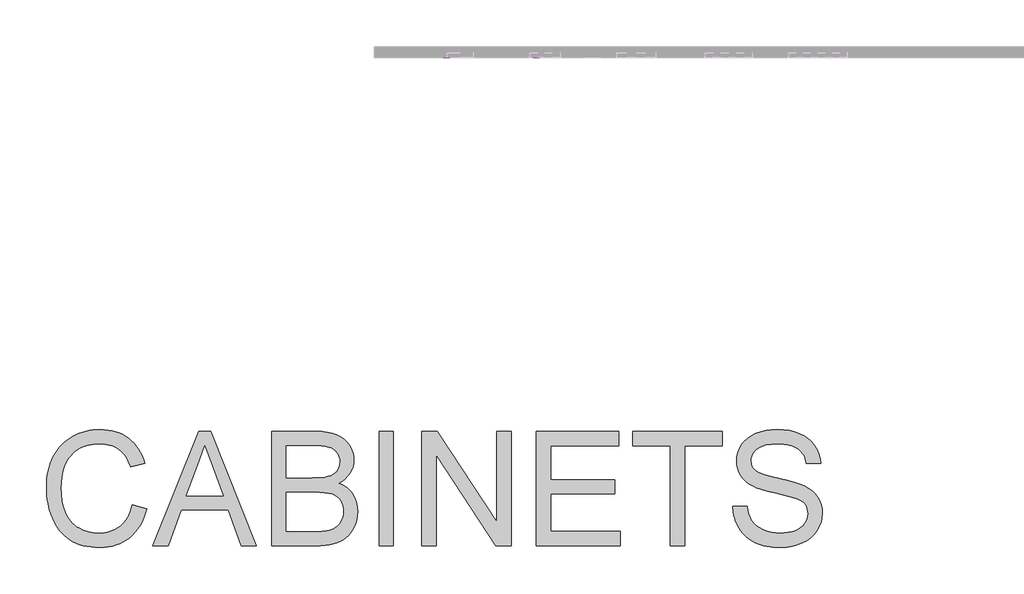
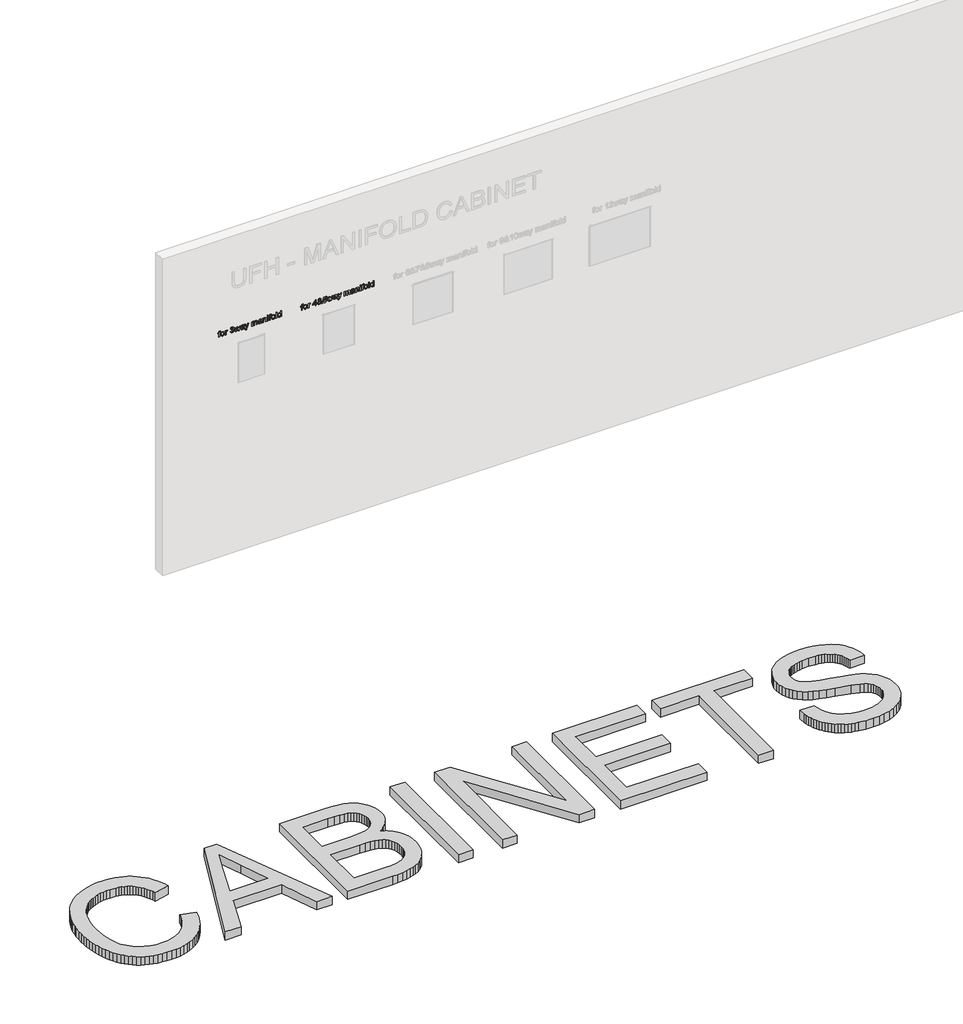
# One storey, part 7 of 26: 3 proxies.
"""IFC4 building model written with IfcOpenShell, lengths in millimetres."""

from ifc_helpers import new_model, si_unit, frame, origin, origin_with_axes, place, context, project, spatial, polyline, outline, extrude, element, save

model = new_model("IFC4")

# Units and contexts
model_context = context("Model", 3, world=origin())
ifc_project = project(units=[si_unit("LENGTHUNIT", "METRE", prefix="MILLI")], contexts=[model_context])

# Site, building, storey
site = spatial("IfcSite", under=ifc_project)
building = spatial("IfcBuilding", under=site)
storey = spatial("IfcBuildingStorey", under=building, Name="Superpipe UFH", Elevation=0.0)

# Proxies
placement = place(None, origin())
element("IfcBuildingElementProxy", 1, Name="2000mm Arial", ObjectType="2000mm Arial", at=placement, inside=storey, context=model_context, shape_type="SweptSolid", body=[
    extrude(outline(polyline([(-4521.2188799, -23078.3000419), (-4270.0781045, -23143.0472731), (-4292.8637956, -23223.6019337), (-4319.7728307, -23299.2285085), (-4350.8052098, -23369.9269973), (-4385.960933, -23435.6974003), (-4425.2400002, -23496.5397173), (-4468.6424114, -23552.4539485), (-4516.1681667, -23603.4400937), (-4567.8172659, -23649.4981531), (-4623.0302221, -23690.3675435), (-4681.2475478, -23725.7876819), (-4742.4692432, -23755.7585682), (-4806.6953081, -23780.2802024), (-4873.9257428, -23799.3525846), (-4944.160547, -23812.9757147), (-5017.3997209, -23821.1495928), (-5093.6432644, -23823.8742188), (-5172.0902678, -23821.8125468), (-5246.7894733, -23815.6275308), (-5317.740881, -23805.3191707), (-5384.9444909, -23790.8874666), (-5448.400303, -23772.3324185), (-5508.1083172, -23749.6540263), (-5564.0685336, -23722.8522901), (-5616.2809522, -23691.9272099), (-5665.1172871, -23657.0933835), (-5710.9492523, -23618.5654087), (-5753.7768479, -23576.3432855), (-5793.6000739, -23530.427014), (-5830.4189302, -23480.8165941), (-5864.233417, -23427.5120259), (-5895.043534, -23370.5133092), (-5922.8492815, -23309.8204442), (-5947.5088715, -23246.7056894), (-5968.8805162, -23182.4413034), (-5986.9642155, -23117.0272861), (-6001.7599695, -23050.4636376), (-6013.2677781, -22982.7503579), (-6021.4876415, -22913.8874469), (-6026.4195595, -22843.8749047), (-6028.0635321, -22772.7127313), (-6026.2049616, -22695.7257596), (-6020.6292501, -22621.2373198), (-6011.3363977, -22549.2474118), (-5998.3264042, -22479.7560358), (-5981.5992697, -22412.7631916), (-5961.1549943, -22348.2688793), (-5936.9935778, -22286.2730989), (-5909.1150204, -22226.7758504), (-5877.8105618, -22170.2791394), (-5843.3714421, -22117.2849716), (-5805.7976613, -22067.793347), (-5765.0892193, -22021.8042655), (-5721.2461161, -21979.3177271), (-5674.2683517, -21940.3337319), (-5624.1559262, -21904.8522799), (-5570.9088395, -21872.8733711), (-5515.4046434, -21844.5349611), (-5458.5208899, -21819.9750059), (-5400.257579, -21799.1935052), (-5340.6147105, -21782.1904593), (-5279.5922845, -21768.965868), (-5217.1903011, -21759.5197313), (-5153.4087602, -21753.8520493), (-5088.2476618, -21751.962822), (-5014.9356779, -21754.4077044), (-4944.6050711, -21761.7423517), (-4877.2558412, -21773.9667638), (-4812.8879884, -21791.0809408), (-4751.5015126, -21813.0848827), (-4693.0964137, -21839.9785893), (-4637.6726919, -21871.7620609), (-4585.2303471, -21908.4352973), (-4536.2139033, -21949.5461102), (-4491.0678847, -21994.6423115), (-4449.7922913, -22043.723901), (-4412.387123, -22096.7908788), (-4378.8523799, -22153.8432449), (-4349.1880619, -22214.8809993), (-4323.3941691, -22279.9041419), (-4301.4707014, -22348.9126728), (-4552.6114768, -22408.7548107), (-4571.388787, -22357.5770602), (-4592.1587913, -22309.9938234), (-4614.9214897, -22266.0051003), (-4639.6768823, -22225.6108908), (-4666.4249691, -22188.811195), (-4695.1657499, -22155.6060128), (-4725.899225, -22125.9953443), (-4758.6253941, -22099.9791894), (-4793.4362279, -22077.2739725), (-4830.4236968, -22057.5961179), (-4869.5878009, -22040.9456255), (-4910.9285401, -22027.3224954), (-4954.4459145, -22016.7267275), (-5000.1399239, -22009.1583219), (-5098.0578483, -22003.1035974), (-5155.5930595, -22004.782059), (-5210.7217094, -22009.8174438), (-5263.4437978, -22018.2097518), (-5313.7593248, -22029.958983), (-5361.6682905, -22045.0651374), (-5407.1706948, -22063.5282151), (-5450.2665377, -22085.3482159), (-5490.9558192, -22110.52514), (-5528.9741241, -22138.5301568), (-5564.0570373, -22168.8344362), (-5596.2045587, -22201.437978), (-5625.4166884, -22236.3407823), (-5651.6934263, -22273.5428491), (-5675.0347725, -22313.0441783), (-5695.4407269, -22354.84477), (-5712.9112896, -22398.9446242), (-5740.9163065, -22490.1487022), (-5760.91989, -22582.7629944), (-5772.9220401, -22676.787501), (-5776.9227568, -22772.222222), (-5772.1862761, -22892.1517524), (-5757.976834, -23004.2331336), (-5734.2944306, -23108.4663655), (-5701.1390658, -23204.8514483), (-5680.8748992, -23249.6219207), (-5657.974245, -23291.4723297), (-5632.4371032, -23330.4026754), (-5604.2634737, -23366.4129578), (-5573.4533566, -23399.5031769), (-5540.0067519, -23429.6733326), (-5503.9236595, -23456.923425), (-5465.2040795, -23481.253454), (-5383.4882913, -23521.2759494), (-5298.492222, -23549.8634461), (-5210.2158716, -23567.0159441), (-5118.6592401, -23572.7334435), (-5062.9749351, -23570.7867346), (-5009.4749296, -23564.9466079), (-4958.1592234, -23555.2130634), (-4909.0278165, -23541.5861012), (-4862.0807089, -23524.0657212), (-4817.3179008, -23502.6519234), (-4774.7393919, -23477.3447078), (-4734.3451824, -23448.1440744), (-4696.6257816, -23415.1113369), (-4662.0716988, -23378.307809), (-4630.682934, -23337.7334906), (-4602.4594872, -23293.3883818), (-4577.4013583, -23245.2724825), (-4555.5085475, -23193.3857928), (-4536.7810547, -23137.7283126), (-4521.2188799, -23078.3000419)])), origin_with_axes(), (0.0, 0.0, 1.0), 150.0),
    extrude(outline(polyline([(-4158.7324873, -23792.4816219), (-3356.7497378, -21783.3554189), (-3142.8876713, -21783.3554189), (-2340.9049218, -23792.4816219), (-2606.2704677, -23792.4816219), (-2836.319342, -23164.6296835), (-3663.8085765, -23164.6296835), (-3893.3669415, -23792.4816219), (-4158.7324873, -23792.4816219)]), holes=[polyline([(-3571.592823, -22913.4889081), (-2928.0445861, -22913.4889081), (-3109.0425277, -22419.5460159), (-3249.8187046, -22034.4961943), (-3374.8985829, -22376.3811951), (-3571.592823, -22913.4889081)])]), origin_with_axes(), (0.0, 0.0, 1.0), 150.0),
    extrude(outline(polyline([(-2072.59632, -23792.4816219), (-2072.59632, -21783.3554189), (-1305.930242, -21783.3554189), (-1194.7225806, -21787.0495673), (-1095.0725451, -21798.1320124), (-1006.9801357, -21816.6027542), (-930.4453523, -21842.4617928), (-863.521486, -21875.9850396), (-804.261828, -21917.4484062), (-752.6663781, -21966.8518924), (-708.7351365, -22024.1954984), (-673.6483913, -22086.2449283), (-648.5864303, -22149.7658861), (-633.5492538, -22214.7583719), (-628.5368616, -22281.2223857), (-632.7521761, -22342.6126937), (-645.3981197, -22402.1942485), (-666.4746923, -22459.9670501), (-695.981894, -22515.9310986), (-734.0116953, -22568.3389545), (-780.6560666, -22615.4431783), (-835.915008, -22657.24377), (-899.7885194, -22693.7407296), (-823.9894999, -22726.0530316), (-789.5733729, -22745.8420172), (-757.4795009, -22768.0528927), (-727.707884, -22792.6856579), (-700.2585222, -22819.740313), (-675.1314155, -22849.2168579), (-652.3265639, -22881.1152925), (-614.4500469, -22950.3077645), (-587.3953918, -23025.447662), (-571.1625988, -23106.5349851), (-565.7516678, -23193.5697338), (-569.4458161, -23264.8928556), (-580.5282612, -23333.6714603), (-598.9990031, -23399.9055478), (-624.8580416, -23463.5951182), (-656.1739965, -23522.4255806), (-691.0154871, -23574.0823441), (-729.3825135, -23618.5654087), (-771.2750757, -23655.8747744), (-817.6741924, -23687.5432828), (-869.5608821, -23715.1037756), (-926.9351449, -23738.5562528), (-989.7969809, -23757.9007144), (-1059.1274085, -23773.0298614), (-1135.9074466, -23783.836395), (-1220.1370951, -23790.3203152), (-1311.816354, -23792.4816219), (-2072.59632, -23792.4816219)]), holes=[polyline([(-1821.4555446, -22599.5629389), (-1362.829324, -22599.5629389), (-1202.4327741, -22594.1673363), (-1142.1001269, -22587.422833), (-1095.0112315, -22577.9805285), (-1044.8413244, -22561.6864218), (-1001.2626364, -22540.7631333), (-964.2751674, -22515.2106631), (-933.8789176, -22485.0290111), (-910.1658573, -22450.4327751), (-893.2279571, -22411.636553), (-883.065217, -22368.6403448), (-879.677637, -22321.4441505), (-882.8352908, -22276.2559788), (-892.3082521, -22233.8882357), (-908.0965211, -22194.3409212), (-930.2000976, -22157.6140353), (-958.1897861, -22125.0718072), (-991.6363908, -22098.0784658), (-1030.5399118, -22076.6340112), (-1074.9003491, -22060.7384433), (-1130.3892167, -22049.2574593), (-1202.6780287, -22041.0567565), (-1291.7667852, -22036.1363349), (-1397.6554862, -22034.4961943), (-1821.4555446, -22034.4961943), (-1821.4555446, -22599.5629389)]), polyline([(-1821.4555446, -23541.3408465), (-1306.4207514, -23541.3408465), (-1193.6036062, -23538.8882999), (-1120.0272072, -23531.53066), (-1074.8543638, -23522.0423702), (-1033.5136246, -23509.7643086), (-996.0049895, -23494.6964752), (-962.3284586, -23476.83887), (-931.9781939, -23455.4250722), (-904.448358, -23429.688661), (-879.7389506, -23399.6296363), (-857.8499719, -23365.2479982), (-839.9310531, -23327.2641822), (-827.1318253, -23286.3986239), (-819.4522887, -23242.6513233), (-816.8924431, -23196.0222804), (-819.8968128, -23141.6983724), (-828.9099216, -23091.0532844), (-843.9317698, -23044.0870164), (-864.9623572, -23000.7995683), (-892.7221194, -22962.4325419), (-927.931492, -22930.2275389), (-970.590475, -22904.1845593), (-1020.6990685, -22884.3036031), (-1080.4645643, -22869.6036518), (-1152.0942544, -22859.1036865), (-1235.5881389, -22852.8037073), (-1330.9462177, -22850.7037143), (-1821.4555446, -22850.7037143), (-1821.4555446, -23541.3408465)])]), origin_with_axes(), (0.0, 0.0, 1.0), 150.0),
    extrude(outline(polyline([(-189.0405047, -23792.4816219), (-189.0405047, -21783.3554189), (62.1002707, -21783.3554189), (62.1002707, -23792.4816219), (-189.0405047, -23792.4816219)])), origin_with_axes(), (0.0, 0.0, 1.0), 150.0),
    extrude(outline(polyline([(564.3818214, -23792.4816219), (564.3818214, -21783.3554189), (833.1809326, -21783.3554189), (1882.8708921, -23375.0581847), (1882.8708921, -21783.3554189), (2134.0116675, -21783.3554189), (2134.0116675, -23792.4816219), (1865.2125564, -23792.4816219), (815.5225968, -22200.2883468), (815.5225968, -23792.4816219), (564.3818214, -23792.4816219)])), origin_with_axes(), (0.0, 0.0, 1.0), 150.0),
    extrude(outline(polyline([(2573.5080244, -23792.4816219), (2573.5080244, -21783.3554189), (4017.5674828, -21783.3554189), (4017.5674828, -22034.4961943), (2824.6487998, -22034.4961943), (2824.6487998, -22630.9555358), (3954.782289, -22630.9555358), (3954.782289, -22882.0963112), (2824.6487998, -22882.0963112), (2824.6487998, -23541.3408465), (4048.9600797, -23541.3408465), (4048.9600797, -23792.4816219), (2573.5080244, -23792.4816219)])), origin_with_axes(), (0.0, 0.0, 1.0), 150.0),
    extrude(outline(polyline([(4927.9527936, -23792.4816219), (4927.9527936, -22034.4961943), (4268.7082582, -22034.4961943), (4268.7082582, -21783.3554189), (5838.3381043, -21783.3554189), (5838.3381043, -22034.4961943), (5179.0935689, -22034.4961943), (5179.0935689, -23792.4816219), (4927.9527936, -23792.4816219)])), origin_with_axes(), (0.0, 0.0, 1.0), 150.0),
    extrude(outline(polyline([(6026.6936858, -23101.8444896), (6277.8344612, -23101.8444896), (6289.3307735, -23174.9457078), (6306.6518841, -23241.2104521), (6329.797793, -23300.6387228), (6358.7685001, -23353.2305197), (6395.0355335, -23400.0435036), (6440.0704211, -23442.1353352), (6493.8731629, -23479.5060145), (6556.4437589, -23512.1555416), (6625.4829466, -23538.6583737), (6698.6914637, -23557.588968), (6776.06931, -23568.9473246), (6857.6164856, -23572.7334435), (6929.7520135, -23569.8670296), (6997.5342711, -23561.2677879), (7060.9632584, -23546.9357185), (7120.0389755, -23526.8708214), (7173.3052227, -23501.7935321), (7219.3058005, -23472.4242861), (7258.0407089, -23438.7630835), (7289.5099479, -23400.8099244), (7313.8668017, -23360.2049492), (7331.2645544, -23318.5882985), (7341.703206, -23275.9599723), (7345.1827565, -23232.3199706), (7342.5769257, -23188.8639099), (7334.7594333, -23148.2589347), (7321.7302793, -23110.5050449), (7303.4894637, -23075.6022406), (7277.1859011, -23043.3665808), (7239.9685059, -23013.6141245), (7191.8372782, -22986.3448716), (7132.792218, -22961.5588221), (7000.1707587, -22922.134135), (6767.1175148, -22865.6642487), (6636.2894802, -22833.5512162), (6527.0745129, -22802.2046046), (6439.4726128, -22771.6244137), (6373.4837799, -22741.8106437), (6306.4219579, -22701.8034767), (6248.4652152, -22657.3204121), (6199.613552, -22608.3614499), (6159.8669681, -22554.9265901), (6129.0721794, -22497.5676557), (6107.0759018, -22436.8364697), (6093.8781352, -22372.733032), (6089.4788797, -22305.2573427), (6094.9204675, -22230.4699988), (6111.245231, -22158.1658583), (6138.4531703, -22088.3449213), (6176.5442852, -22021.0071878), (6199.5637346, -21988.955469), (6225.0893801, -21958.8964443), (6283.6592594, -21904.7564773), (6352.2539231, -21858.5872869), (6430.8733712, -21820.3888731), (6516.8657876, -21790.4524757), (6607.5793562, -21769.0693348), (6703.0140771, -21756.2394502), (6803.1699503, -21751.962822), (6912.4309029, -21756.4387196), (7015.0699795, -21769.8664124), (7111.0871803, -21792.2459005), (7200.4825051, -21823.5771837), (7281.600485, -21863.5843507), (7352.7856511, -21911.9914899), (7384.6534289, -21939.3450491), (7414.0380033, -21968.7986013), (7440.9393742, -22000.3521466), (7465.3575416, -22034.005685), (7506.3457273, -22105.7120172), (7536.6040214, -22182.0168744), (7556.1324239, -22262.9202565), (7564.930935, -22348.4221635), (7313.7901596, -22348.4221635), (7306.9536859, -22307.0507675), (7296.9902152, -22268.2852022), (7283.8997475, -22232.1254678), (7267.6822829, -22198.5715641), (7248.3378213, -22167.6234913), (7225.8663628, -22139.2812493), (7200.2679073, -22113.544838), (7171.5424548, -22090.4142576), (7139.4370865, -22069.9508216), (7103.6988835, -22052.2158437), (7064.3278458, -22037.209324), (7021.3239734, -22024.9312624), (6974.6872663, -22015.381659), (6924.4177245, -22008.5605136), (6812.9801368, -22003.1035974), (6697.9863565, -22008.4992), (6646.7664529, -22015.2437032), (6599.731207, -22024.6860078), (6556.8806187, -22036.8261136), (6518.2146882, -22051.6640207), (6483.7334154, -22069.1997292), (6453.4368002, -22089.4332389), (6426.9952818, -22111.5751365), (6404.0792992, -22134.8360085), (6384.6888524, -22159.2158549), (6368.8239413, -22184.7146757), (6356.4845661, -22211.3324708), (6347.6707266, -22239.0692404), (6342.3824229, -22267.9249844), (6340.619655, -22297.8997028), (6345.6167188, -22348.514134), (6360.6079101, -22394.4074129), (6385.5932289, -22435.5795395), (6420.5726753, -22472.0305139), (6444.1477798, -22489.2443256), (6475.6323473, -22506.5501078), (6562.3298708, -22541.4375836), (6680.6652459, -22576.6929415), (6830.6384726, -22612.3161814), (6982.7576776, -22647.0503731), (7107.5309876, -22679.6385865), (7204.9584027, -22710.0808216), (7275.0399228, -22738.3770784), (7352.0345587, -22781.2659877), (7418.2073326, -22829.4891859), (7473.5582444, -22883.046673), (7518.0872943, -22941.9384491), (7552.3156482, -23005.8579457), (7576.7644725, -23074.4985947), (7591.4337671, -23147.8603959), (7596.3235319, -23225.9433493), (7590.6980031, -23304.5014837), (7573.8214165, -23380.7603556), (7545.6937723, -23454.7199651), (7506.3150704, -23526.3803121), (7456.3750896, -23592.9669532), (7396.5636085, -23651.7054451), (7326.8806273, -23702.5957878), (7247.3261458, -23745.6379812), (7160.214755, -23779.8663352), (7067.8610458, -23804.3151594), (6970.2650182, -23818.984454), (6867.4266721, -23823.8742188), (6738.9592137, -23818.6012436), (6621.374931, -23802.7823178), (6566.6639806, -23790.9181234), (6514.673824, -23776.4174415), (6465.4044614, -23759.2802718), (6418.8558927, -23739.5066146), (6374.8824979, -23717.0811413), (6333.3386572, -23691.9885236), (6294.2243705, -23664.2287613), (6257.5396378, -23633.8018547), (6223.2844591, -23600.7078035), (6191.4588344, -23564.9466079), (6162.0627637, -23526.5182678), (6135.0962471, -23485.4227833), (6110.8696848, -23442.3039477), (6089.6934775, -23397.8055547), (6071.567625, -23351.9276043), (6056.4921274, -23304.6700963), (6044.4669847, -23256.0330309), (6035.4921969, -23206.0164079), (6026.6936858, -23101.8444896)])), origin_with_axes(), (0.0, 0.0, 1.0), 150.0),
])
element("IfcBuildingElementProxy", 2, Name="600mm Arial 2", ObjectType="600mm Arial 2", at=placement, inside=storey, context=model_context, shape_type="SweptSolid", body=[
    extrude(outline(polyline([(3970.2370156, 673.6444149), (3970.2370156, 686.2014537), (4031.4525796, 686.2014537), (4031.4525796, 700.3281223), (4044.0096184, 700.3281223), (4044.0096184, 686.2014537), (4049.8466793, 686.2014537), (4057.6212522, 688.5191102), (4059.7059168, 696.4285731), (4059.1173056, 703.6635857), (4070.8895295, 705.5029957), (4072.2629556, 694.0496029), (4069.393476, 681.3944622), (4061.9132088, 674.9687901), (4051.4408347, 673.6444149), (4044.0096184, 673.6444149), (4044.0096184, 662.657006), (4031.4525796, 662.657006), (4031.4525796, 673.6444149), (3970.2370156, 673.6444149)])), frame((0.0, -15228.3023992, 0.0), z_axis=(0.0, 1.0, 0.0), x_axis=(0.0, 0.0, 1.0)), (0.0, 0.0, 1.0), 10.0),
    extrude(outline(polyline([(4007.123317, 708.1762715), (3990.666729, 710.4540742), (3978.5756741, 717.2874822), (3971.1444578, 727.811973), (3968.6673857, 741.1630237), (3973.1678088, 758.1714346), (3985.8106867, 770.0294976), (4008.1533866, 774.100725), (4023.791437, 771.7983969), (4035.6341716, 764.8914124), (4043.092979, 754.3546589), (4045.5792482, 741.1630237), (4043.5375031, 729.108757), (4037.4122679, 719.0410531), (4024.9104114, 710.8924669), (4007.123317, 708.1762715)]), holes=[polyline([(4007.1478424, 720.7333103), (4018.506199, 722.1864441), (4026.5842745, 726.5458458), (4031.4127257, 733.106408), (4033.0222094, 741.1630237), (4031.4065943, 749.136866), (4026.559749, 755.6943625), (4018.5736441, 760.0813553), (4007.5402499, 761.5436863), (3995.9274416, 760.0905524), (3987.7236731, 755.7311507), (3982.8492367, 749.1828512), (3981.2244245, 741.1630237), (3982.8400396, 733.106408), (3987.6868849, 726.5458458), (3995.7833545, 722.1864441), (4007.1478424, 720.7333103)])]), frame((0.0, -15228.3023992, 0.0), z_axis=(0.0, 1.0, 0.0), x_axis=(0.0, 0.0, 1.0)), (0.0, 0.0, 1.0), 10.0),
    extrude(outline(polyline([(3970.2370156, 788.2273936), (3970.2370156, 800.7844324), (4009.0117779, 800.7844324), (4023.6780067, 802.8200461), (4030.5451373, 807.3449947), (4033.0222094, 814.4451172), (4030.4470355, 823.2742851), (4041.7042245, 827.4681398), (4045.5792482, 814.8620501), (4043.151227, 807.0139009), (4033.0957858, 799.2148026), (4044.0096184, 799.2148026), (4044.0096184, 788.2273936), (3970.2370156, 788.2273936)])), frame((0.0, -15228.3023992, 0.0), z_axis=(0.0, 1.0, 0.0), x_axis=(0.0, 0.0, 1.0)), (0.0, 0.0, 1.0), 10.0),
    extrude(outline(polyline([(3996.920723, 871.4177755), (3985.5715634, 874.5263783), (3976.5400604, 881.3996403), (3970.6355544, 891.2834032), (3968.6673857, 903.4235091), (3970.9727796, 916.8450705), (3977.8889611, 927.7282462), (3988.1160805, 934.9387333), (4000.3542883, 937.342229), (4016.6882488, 932.5352376), (4025.2721621, 918.8500274), (4033.5862952, 929.1507233), (4045.1623153, 932.6333395), (4057.8297186, 928.9667823), (4067.2474977, 918.3717808), (4070.6933257, 903.2273053), (4068.9458863, 892.2644219), (4063.7035678, 883.2635757), (4055.2852015, 876.6846194), (4044.0096184, 872.9874053), (4042.4399885, 885.5444441), (4054.2122123, 891.7003362), (4058.136287, 903.6687637), (4054.2490005, 915.4900385), (4044.4265513, 920.0763007), (4037.91504, 918.4944081), (4033.3410405, 913.7487304), (4029.7357969, 899.4994345), (4029.8829497, 897.4883462), (4017.325911, 896.0903946), (4018.6993371, 904.8950371), (4013.5612519, 919.1688585), (4000.5750175, 924.7851903), (3986.7917054, 919.1198075), (3982.6162447, 912.4734062), (3981.2244245, 903.8649675), (3985.2711265, 890.9032585), (3998.4903528, 883.9748143), (3996.920723, 871.4177755)])), frame((0.0, -15228.3023992, 0.0), z_axis=(0.0, 1.0, 0.0), x_axis=(0.0, 0.0, 1.0)), (0.0, 0.0, 1.0), 10.0),
    extrude(outline(polyline([(3970.2370156, 963.7071053), (3970.2370156, 979.0600473), (4026.9889447, 991.4944587), (4013.4999382, 994.2903619), (3970.2370156, 1003.9288702), (3970.2370156, 1019.1101338), (4044.0096184, 1041.7226138), (4044.0096184, 1028.6260148), (4001.2617305, 1015.8727723), (3987.1105364, 1011.8996467), (4000.5259665, 1009.128269), (4044.0096184, 999.0483023), (4044.0096184, 984.0877679), (4000.4033392, 973.9587503), (3985.5899575, 970.8440161), (4000.9674249, 967.0425688), (4044.0096184, 954.3138517), (4044.0096184, 941.2663036), (3970.2370156, 963.7071053)])), frame((0.0, -15228.3023992, 0.0), z_axis=(0.0, 1.0, 0.0), x_axis=(0.0, 0.0, 1.0)), (0.0, 0.0, 1.0), 10.0),
    extrude(outline(polyline([(3979.6547947, 1097.4444733), (3970.2370156, 1100.583733), (3970.2370156, 1113.1407718), (3980.7952288, 1110.6391742), (4002.6106312, 1110.0015121), (4018.2333532, 1110.0015121), (4029.2207621, 1109.3883754), (4037.7433617, 1105.5378772), (4043.3474308, 1096.9417013), (4045.5792482, 1081.7236494), (4043.0531252, 1065.1566969), (4035.8671635, 1054.2183389), (4023.6044304, 1048.7859481), (4022.0348005, 1061.3429869), (4030.606451, 1067.4007771), (4033.0222094, 1080.1049686), (4029.3924404, 1093.9863826), (4020.1218141, 1097.4444733), (4017.325911, 1097.3708969), (4013.0094289, 1075.5922828), (4011.120968, 1064.7275012), (4007.0006896, 1055.9351215), (3999.7902025, 1049.619814), (3989.8573887, 1047.2163183), (3981.4144969, 1048.8074079), (3974.6270741, 1053.5806768), (3970.1573078, 1061.3215271), (3968.6673857, 1071.815361), (3971.1444578, 1085.2675793), (3979.6547947, 1097.4444733)]), holes=[polyline([(4004.7688722, 1097.4444733), (4001.2126796, 1097.3708969), (3991.5005949, 1095.3843342), (3984.2287941, 1087.1928284), (3981.2244245, 1074.4886368), (3983.9467513, 1063.5134906), (3990.7403054, 1059.773357), (3995.5718223, 1061.4901397), (3998.8827603, 1066.3829702), (4000.918374, 1077.1864381), (4004.7688722, 1097.4444733)])]), frame((0.0, -15228.3023992, 0.0), z_axis=(0.0, 1.0, 0.0), x_axis=(0.0, 0.0, 1.0)), (0.0, 0.0, 1.0), 10.0),
    extrude(outline(polyline([(3941.9836784, 1127.2674404), (3940.4140485, 1134.9439114), (3943.2344771, 1144.7295724), (3952.0881705, 1152.0136359), (3968.471182, 1158.6845628), (4044.0096184, 1184.3627261), (4044.0096184, 1171.2170761), (4001.1391032, 1156.6734745), (3986.669078, 1151.7438558), (4003.0520896, 1146.8142371), (4044.0096184, 1132.663043), (4044.0096184, 1119.4192912), (3970.5067957, 1146.1029986), (3967.4656379, 1145.1219799), (3958.2195371, 1141.6884146), (3954.3567761, 1138.0341201), (3952.9710873, 1132.0744318), (3954.0747333, 1125.6978106), (3941.9836784, 1127.2674404)])), frame((0.0, -15228.3023992, 0.0), z_axis=(0.0, 1.0, 0.0), x_axis=(0.0, 0.0, 1.0)), (0.0, 0.0, 1.0), 10.0),
    extrude(outline(polyline([(3970.2370156, 1234.0022699), (3970.2370156, 1246.5593087), (4007.442148, 1246.5593087), (4022.427208, 1248.4722951), (4030.3244081, 1254.6527126), (4033.0222094, 1263.9478643), (4028.9755075, 1273.476008), (4016.8108762, 1276.3822758), (3970.2370156, 1276.3822758), (3970.2370156, 1288.9393145), (4011.8812574, 1288.9393145), (4021.4523207, 1290.1686535), (4027.9944888, 1293.8566706), (4033.0222094, 1306.2052429), (4031.0601721, 1313.3789418), (4025.8975615, 1317.597322), (4015.4129246, 1318.7622816), (3970.2370156, 1318.7622816), (3970.2370156, 1331.3193204), (4020.8085272, 1331.3193204), (4031.7990018, 1329.8815149), (4039.5091953, 1325.5680985), (4044.061735, 1318.5875377), (4045.5792482, 1309.1482988), (4041.9310851, 1296.775201), (4030.9865957, 1286.9772772), (4041.7410127, 1280.0610957), (4045.5792482, 1267.4795315), (4041.8145891, 1255.1922729), (4031.8695125, 1246.5593087), (4044.0096184, 1246.5593087), (4044.0096184, 1234.0022699), (3970.2370156, 1234.0022699)])), frame((0.0, -15228.3023992, 0.0), z_axis=(0.0, 1.0, 0.0), x_axis=(0.0, 0.0, 1.0)), (0.0, 0.0, 1.0), 10.0),
    extrude(outline(polyline([(3979.6547947, 1397.2437739), (3970.2370156, 1400.3830336), (3970.2370156, 1412.9400724), (3980.7952288, 1410.4384748), (4002.6106312, 1409.8008127), (4018.2333532, 1409.8008127), (4029.2207621, 1409.187676), (4037.7433617, 1405.3371778), (4043.3474308, 1396.7410019), (4045.5792482, 1381.52295), (4043.0531252, 1364.9559975), (4035.8671635, 1354.0176395), (4023.6044304, 1348.5852487), (4022.0348005, 1361.1422875), (4030.606451, 1367.2000777), (4033.0222094, 1379.9042692), (4029.3924404, 1393.7856832), (4020.1218141, 1397.2437739), (4017.325911, 1397.1701975), (4013.0094289, 1375.3915834), (4011.120968, 1364.5268018), (4007.0006896, 1355.7344221), (3999.7902025, 1349.4191146), (3989.8573887, 1347.0156189), (3981.4144969, 1348.6067085), (3974.6270741, 1353.3799774), (3970.1573078, 1361.1208277), (3968.6673857, 1371.6146616), (3971.1444578, 1385.0668799), (3979.6547947, 1397.2437739)]), holes=[polyline([(4004.7688722, 1397.2437739), (4001.2126796, 1397.1701975), (3991.5005949, 1395.1836348), (3984.2287941, 1386.992129), (3981.2244245, 1374.2879374), (3983.9467513, 1363.3127912), (3990.7403054, 1359.5726576), (3995.5718223, 1361.2894403), (3998.8827603, 1366.1822708), (4000.918374, 1376.9857387), (4004.7688722, 1397.2437739)])]), frame((0.0, -15228.3023992, 0.0), z_axis=(0.0, 1.0, 0.0), x_axis=(0.0, 0.0, 1.0)), (0.0, 0.0, 1.0), 10.0),
    extrude(outline(polyline([(3970.2370156, 1427.066741), (3970.2370156, 1439.6237798), (4009.3796599, 1439.6237798), (4020.9495486, 1441.0554539), (4028.0925907, 1445.3504762), (4033.0222094, 1458.9743727), (4030.8271802, 1467.5950741), (4024.953331, 1472.7086339), (4013.8432947, 1474.1556364), (3970.2370156, 1474.1556364), (3970.2370156, 1486.7126752), (4015.5355519, 1486.7126752), (4027.6756578, 1486.0504876), (4036.9094958, 1482.2858285), (4043.1880152, 1474.1924246), (4045.5792482, 1462.3343616), (4042.6116668, 1449.2254998), (4033.7089225, 1439.6237798), (4044.0096184, 1439.6237798), (4044.0096184, 1427.066741), (3970.2370156, 1427.066741)])), frame((0.0, -15228.3023992, 0.0), z_axis=(0.0, 1.0, 0.0), x_axis=(0.0, 0.0, 1.0)), (0.0, 0.0, 1.0), 10.0),
    extrude(outline(polyline([(1516.5356422, -15228.3023992), (1503.9786035, -15228.3023992), (1503.9786035, -15218.3023992), (1516.5356422, -15218.3023992), (1516.5356422, -15228.3023992)])), frame((0.0, 0.0, 4058.136287), z_axis=(0.0, 0.0, 1.0), x_axis=(1.0, 0.0, 0.0)), (0.0, 0.0, 1.0), 12.5570388),
    extrude(outline(polyline([(1516.5356422, -15228.3023992), (1503.9786035, -15228.3023992), (1503.9786035, -15218.3023992), (1516.5356422, -15218.3023992), (1516.5356422, -15228.3023992)])), frame((0.0, 0.0, 3970.2370156), z_axis=(0.0, 0.0, 1.0), x_axis=(1.0, 0.0, 0.0)), (0.0, 0.0, 1.0), 73.7726028),
    extrude(outline(polyline([(3970.2370156, 1538.5104601), (3970.2370156, 1551.0674988), (4031.4525796, 1551.0674988), (4031.4525796, 1565.1941675), (4044.0096184, 1565.1941675), (4044.0096184, 1551.0674988), (4049.8466793, 1551.0674988), (4057.6212522, 1553.3851554), (4059.7059168, 1561.2946183), (4059.1173056, 1568.5296309), (4070.8895295, 1570.3690409), (4072.2629556, 1558.9156481), (4069.393476, 1546.2605074), (4061.9132088, 1539.8348353), (4051.4408347, 1538.5104601), (4044.0096184, 1538.5104601), (4044.0096184, 1527.5230512), (4031.4525796, 1527.5230512), (4031.4525796, 1538.5104601), (3970.2370156, 1538.5104601)])), frame((0.0, -15228.3023992, 0.0), z_axis=(0.0, 1.0, 0.0), x_axis=(0.0, 0.0, 1.0)), (0.0, 0.0, 1.0), 10.0),
    extrude(outline(polyline([(4007.123317, 1573.0423167), (3990.666729, 1575.3201194), (3978.5756741, 1582.1535274), (3971.1444578, 1592.6780182), (3968.6673857, 1606.0290689), (3973.1678088, 1623.0374798), (3985.8106867, 1634.8955428), (4008.1533866, 1638.9667702), (4023.791437, 1636.6644421), (4035.6341716, 1629.7574576), (4043.092979, 1619.2207041), (4045.5792482, 1606.0290689), (4043.5375031, 1593.9748022), (4037.4122679, 1583.9070983), (4024.9104114, 1575.7585121), (4007.123317, 1573.0423167)]), holes=[polyline([(4007.1478424, 1585.5993555), (4018.506199, 1587.0524893), (4026.5842745, 1591.411891), (4031.4127257, 1597.9724532), (4033.0222094, 1606.0290689), (4031.4065943, 1614.0029112), (4026.559749, 1620.5604077), (4018.5736441, 1624.9474005), (4007.5402499, 1626.4097315), (3995.9274416, 1624.9565976), (3987.7236731, 1620.5971959), (3982.8492367, 1614.0488964), (3981.2244245, 1606.0290689), (3982.8400396, 1597.9724532), (3987.6868849, 1591.411891), (3995.7833545, 1587.0524893), (4007.1478424, 1585.5993555)])]), frame((0.0, -15228.3023992, 0.0), z_axis=(0.0, 1.0, 0.0), x_axis=(0.0, 0.0, 1.0)), (0.0, 0.0, 1.0), 10.0),
    extrude(outline(polyline([(1665.6504776, -15228.3023992), (1653.0934388, -15228.3023992), (1653.0934388, -15218.3023992), (1665.6504776, -15218.3023992), (1665.6504776, -15228.3023992)])), frame((0.0, 0.0, 3970.2370156), z_axis=(0.0, 0.0, 1.0), x_axis=(1.0, 0.0, 0.0)), (0.0, 0.0, 1.0), 100.4563101),
    extrude(outline(polyline([(3970.2370156, 1730.0053013), (3970.2370156, 1742.5623401), (4070.6933257, 1742.5623401), (4070.6933257, 1730.0053013), (4033.2674641, 1730.0053013), (4042.1579456, 1721.7402191), (4045.5792482, 1710.164199), (4040.7967823, 1694.1368068), (4027.0379956, 1683.370127), (4007.0497406, 1679.7771462), (3987.0737482, 1683.6766954), (3973.5234281, 1694.6641043), (3968.6673857, 1710.21325), (3972.0212433, 1721.6972996), (3982.0828158, 1730.0053013), (3970.2370156, 1730.0053013)]), holes=[polyline([(4007.0987915, 1692.334185), (4018.739191, 1693.6585602), (4026.7804782, 1697.6316857), (4031.4617766, 1703.5852427), (4033.0222094, 1710.8509121), (4031.3973973, 1718.3035882), (4026.5229608, 1724.4748086), (4018.1781709, 1728.6226781), (4006.1422983, 1730.0053013), (3995.1334296, 1728.6472036), (3987.3680538, 1724.5729105), (3982.7603318, 1718.5549742), (3981.2244245, 1711.3659469), (3982.8339082, 1704.1738539), (3987.6623594, 1697.9995677), (3995.7404349, 1693.7505307), (4007.0987915, 1692.334185)])]), frame((0.0, -15228.3023992, 0.0), z_axis=(0.0, 1.0, 0.0), x_axis=(0.0, 0.0, 1.0)), (0.0, 0.0, 1.0), 10.0),
])
element("IfcBuildingElementProxy", 3, Name="600mm Arial 2", ObjectType="600mm Arial 2", at=placement, inside=storey, context=model_context, shape_type="SweptSolid", body=[
    extrude(outline(polyline([(3962.0075613, 2083.0763978), (3962.0075613, 2095.6334365), (4023.2231253, 2095.6334365), (4023.2231253, 2109.7601051), (4035.7801641, 2109.7601051), (4035.7801641, 2095.6334365), (4041.6172251, 2095.6334365), (4049.3917979, 2097.9510931), (4051.4764625, 2105.860556), (4050.8878514, 2113.0955686), (4062.6600752, 2114.9349785), (4064.0335013, 2103.4815858), (4061.1640218, 2090.8264451), (4053.6837545, 2084.4007729), (4043.2113804, 2083.0763978), (4035.7801641, 2083.0763978), (4035.7801641, 2072.0889888), (4023.2231253, 2072.0889888), (4023.2231253, 2083.0763978), (3962.0075613, 2083.0763978)])), frame((0.0, -15228.3023992, 0.0), z_axis=(0.0, 1.0, 0.0), x_axis=(0.0, 0.0, 1.0)), (0.0, 0.0, 1.0), 10.0),
    extrude(outline(polyline([(3998.8938627, 2117.6082544), (3982.4372748, 2119.8860571), (3970.3462199, 2126.7194651), (3962.9150036, 2137.2439559), (3960.4379315, 2150.5950066), (3964.9383546, 2167.6034175), (3977.5812325, 2179.4614805), (3999.9239323, 2183.5327079), (4015.5619828, 2181.2303797), (4027.4047173, 2174.3233953), (4034.8635248, 2163.7866418), (4037.3497939, 2150.5950066), (4035.3080489, 2138.5407399), (4029.1828136, 2128.473036), (4016.6809572, 2120.3244498), (3998.8938627, 2117.6082544)]), holes=[polyline([(3998.9183882, 2130.1652931), (4010.2767448, 2131.618427), (4018.3548203, 2135.9778287), (4023.1832714, 2142.5383909), (4024.7927552, 2150.5950066), (4023.1771401, 2158.5688488), (4018.3302948, 2165.1263454), (4010.3441898, 2169.5133382), (3999.3107956, 2170.9756691), (3987.6979873, 2169.5225353), (3979.4942188, 2165.1631336), (3974.6197824, 2158.6148341), (3972.9949702, 2150.5950066), (3974.6105853, 2142.5383909), (3979.4574306, 2135.9778287), (3987.5539002, 2131.618427), (3998.9183882, 2130.1652931)])]), frame((0.0, -15228.3023992, 0.0), z_axis=(0.0, 1.0, 0.0), x_axis=(0.0, 0.0, 1.0)), (0.0, 0.0, 1.0), 10.0),
    extrude(outline(polyline([(3962.0075613, 2197.6593765), (3962.0075613, 2210.2164153), (4000.7823236, 2210.2164153), (4015.4485525, 2212.252029), (4022.3156831, 2216.7769775), (4024.7927552, 2223.8771), (4022.2175812, 2232.7062679), (4033.4747703, 2236.9001227), (4037.3497939, 2224.294033), (4034.9217728, 2216.4458837), (4024.8663316, 2208.6467854), (4035.7801641, 2208.6467854), (4035.7801641, 2197.6593765), (3962.0075613, 2197.6593765)])), frame((0.0, -15228.3023992, 0.0), z_axis=(0.0, 1.0, 0.0), x_axis=(0.0, 0.0, 1.0)), (0.0, 0.0, 1.0), 10.0),
    extrude(outline(polyline([(3962.0075613, 2321.6601344), (3962.0075613, 2334.2171731), (3985.552009, 2334.2171731), (3985.552009, 2346.7742119), (3998.1090478, 2346.7742119), (3998.1090478, 2334.2171731), (4060.8942416, 2334.2171731), (4060.8942416, 2324.799394), (3998.1090478, 2276.1408688), (3985.552009, 2276.1408688), (3985.552009, 2321.6601344), (3962.0075613, 2321.6601344)]), holes=[polyline([(3998.1090478, 2321.6601344), (3998.1090478, 2291.5919126), (4036.9083355, 2321.6601344), (3998.1090478, 2321.6601344)])]), frame((0.0, -15228.3023992, 0.0), z_axis=(0.0, 1.0, 0.0), x_axis=(0.0, 0.0, 1.0)), (0.0, 0.0, 1.0), 10.0),
    extrude(outline(polyline([(3974.4174473, 2418.511201), (3960.4379315, 2431.5342236), (3970.1009652, 2440.9520027), (3985.3067544, 2425.7952645), (4005.9817225, 2434.6734833), (4008.7040492, 2422.1164445), (3994.7981098, 2416.6963164), (4017.4351153, 2398.5229459), (4028.7904062, 2412.6864027), (4042.2548872, 2417.407555), (4050.5874144, 2415.8133997), (4057.6323546, 2411.0309337), (4062.4332146, 2403.7407388), (4064.0335013, 2394.6233967), (4062.3596382, 2385.0400708), (4057.338049, 2377.2348411), (4050.0478541, 2372.047705), (4041.5681741, 2370.3186596), (4032.1503951, 2372.5136888), (4019.4462035, 2381.281543), (4006.3496045, 2363.6599955), (3989.6477619, 2357.7616208), (3979.7210794, 2359.5948994), (3970.7876783, 2365.0947353), (3963.0253682, 2375.7633131), (3960.4379315, 2389.6202016), (3963.9328104, 2405.1938727), (3974.4174473, 2418.511201)]), holes=[polyline([(3983.4673444, 2410.098966), (3975.9135007, 2400.5708223), (3972.9949702, 2389.0315904), (3974.5584687, 2381.097602), (3979.2489642, 2375.1992274), (3991.3154936, 2370.3186596), (4000.9294764, 2373.8871149), (4011.4509015, 2387.6826898), (3983.4673444, 2410.098966)]), polyline([(4025.3568409, 2392.1708501), (4031.3410547, 2387.2167059), (4036.4546144, 2383.9548189), (4041.0531394, 2382.8756984), (4048.4475675, 2386.0517462), (4051.4764625, 2393.9857346), (4048.423042, 2401.7480447), (4040.5381046, 2404.8505162), (4033.1436765, 2402.4960714), (4025.3568409, 2392.1708501)])]), frame((0.0, -15228.3023992, 0.0), z_axis=(0.0, 1.0, 0.0), x_axis=(0.0, 0.0, 1.0)), (0.0, 0.0, 1.0), 10.0),
    extrude(outline(polyline([(3988.6912687, 2450.3697817), (3977.1734966, 2453.4323993), (3968.1757161, 2460.1677055), (3962.3723776, 2469.9932205), (3960.4379315, 2482.3264644), (3963.4484325, 2497.1153206), (3972.4799355, 2508.4215606), (3983.2220897, 2514.3260666), (3995.7791285, 2516.2942353), (4008.6427356, 2514.1084031), (4018.9311687, 2507.5509065), (4025.6818033, 2497.8112307), (4027.9320149, 2486.0788607), (4026.1171303, 2476.6794758), (4020.6724768, 2467.7092864), (4048.3372029, 2473.0803636), (4048.3372029, 2511.5853457), (4060.8942416, 2511.5853457), (4060.8942416, 2462.9268205), (4009.0964567, 2451.9394116), (4007.5268269, 2464.4964504), (4013.1922096, 2471.5475219), (4015.3749761, 2482.571719), (4014.0076813, 2491.8699365), (4009.9057971, 2498.476484), (3994.9943136, 2503.7371965), (3986.0210586, 2502.3331136), (3979.0159722, 2498.1208647), (3974.5002207, 2491.3763615), (3972.9949702, 2482.3755153), (3977.3237151, 2469.2543908), (3990.2608986, 2462.9268205), (3988.6912687, 2450.3697817)])), frame((0.0, -15228.3023992, 0.0), z_axis=(0.0, 1.0, 0.0), x_axis=(0.0, 0.0, 1.0)), (0.0, 0.0, 1.0), 10.0),
    extrude(outline(polyline([(3962.0075613, 2542.6591116), (3962.0075613, 2558.0120535), (4018.7594904, 2570.446465), (4005.270484, 2573.2423681), (3962.0075613, 2582.8808764), (3962.0075613, 2598.0621401), (4035.7801641, 2620.67462), (4035.7801641, 2607.578021), (3993.0322762, 2594.8247785), (3978.8810822, 2590.851653), (3992.2965123, 2588.0802753), (4035.7801641, 2578.0003086), (4035.7801641, 2563.0397741), (3992.1738849, 2552.9107565), (3977.3605033, 2549.7960223), (3992.7379707, 2545.994575), (4035.7801641, 2533.265858), (4035.7801641, 2520.2183099), (3962.0075613, 2542.6591116)])), frame((0.0, -15228.3023992, 0.0), z_axis=(0.0, 1.0, 0.0), x_axis=(0.0, 0.0, 1.0)), (0.0, 0.0, 1.0), 10.0),
    extrude(outline(polyline([(3971.4253404, 2676.3964796), (3962.0075613, 2679.5357393), (3962.0075613, 2692.092778), (3972.5657746, 2689.5911805), (3994.3811769, 2688.9535183), (4010.003899, 2688.9535183), (4020.9913079, 2688.3403817), (4029.5139074, 2684.4898835), (4035.1179765, 2675.8937075), (4037.3497939, 2660.6756556), (4034.8236709, 2644.1087031), (4027.6377093, 2633.1703451), (4015.3749761, 2627.7379543), (4013.8053462, 2640.2949931), (4022.3769967, 2646.3527833), (4024.7927552, 2659.0569749), (4021.1629861, 2672.9383888), (4011.8923599, 2676.3964796), (4009.0964567, 2676.3229032), (4004.7799746, 2654.5442891), (4002.8915137, 2643.6795075), (3998.7712354, 2634.8871278), (3991.5607483, 2628.5718202), (3981.6279344, 2626.1683245), (3973.1850426, 2627.7594141), (3966.3976198, 2632.532683), (3961.9278536, 2640.2735333), (3960.4379315, 2650.7673672), (3962.9150036, 2664.2195855), (3971.4253404, 2676.3964796)]), holes=[polyline([(3996.5394179, 2676.3964796), (3992.9832253, 2676.3229032), (3983.2711406, 2674.3363404), (3975.9993399, 2666.1448346), (3972.9949702, 2653.4406431), (3975.717297, 2642.4654969), (3982.5108512, 2638.7253633), (3987.3423681, 2640.4421459), (3990.653306, 2645.3349764), (3992.6889197, 2656.1384444), (3996.5394179, 2676.3964796)])]), frame((0.0, -15228.3023992, 0.0), z_axis=(0.0, 1.0, 0.0), x_axis=(0.0, 0.0, 1.0)), (0.0, 0.0, 1.0), 10.0),
    extrude(outline(polyline([(3933.7542241, 2706.2194466), (3932.1845942, 2713.8959176), (3935.0050229, 2723.6815787), (3943.8587162, 2730.9656422), (3960.2417277, 2737.636569), (4035.7801641, 2763.3147323), (4035.7801641, 2750.1690823), (3992.9096489, 2735.6254808), (3978.4396238, 2730.6958621), (3994.8226353, 2725.7662433), (4035.7801641, 2711.6150492), (4035.7801641, 2698.3712974), (3962.2773415, 2725.0550048), (3959.2361836, 2724.0739861), (3949.9900828, 2720.6404209), (3946.1273219, 2716.9861264), (3944.741633, 2711.0264381), (3945.845279, 2704.6498168), (3933.7542241, 2706.2194466)])), frame((0.0, -15228.3023992, 0.0), z_axis=(0.0, 1.0, 0.0), x_axis=(0.0, 0.0, 1.0)), (0.0, 0.0, 1.0), 10.0),
    extrude(outline(polyline([(3962.0075613, 2812.9542762), (3962.0075613, 2825.511315), (3999.2126938, 2825.511315), (4014.1977537, 2827.4243013), (4022.0949539, 2833.6047188), (4024.7927552, 2842.8998706), (4020.7460532, 2852.4280143), (4008.5814219, 2855.334282), (3962.0075613, 2855.334282), (3962.0075613, 2867.8913208), (4003.6518032, 2867.8913208), (4013.2228664, 2869.1206598), (4019.7650346, 2872.8086768), (4024.7927552, 2885.1572491), (4022.8307179, 2892.330948), (4017.6681072, 2896.5493282), (4007.1834703, 2897.7142879), (3962.0075613, 2897.7142879), (3962.0075613, 2910.2713266), (4012.5790729, 2910.2713266), (4023.5695475, 2908.8335212), (4031.279741, 2904.5201048), (4035.8322807, 2897.5395439), (4037.3497939, 2888.1003051), (4033.7016308, 2875.7272073), (4022.7571415, 2865.9292835), (4033.5115585, 2859.013102), (4037.3497939, 2846.4315377), (4033.5851349, 2834.1442791), (4023.6400582, 2825.511315), (4035.7801641, 2825.511315), (4035.7801641, 2812.9542762), (3962.0075613, 2812.9542762)])), frame((0.0, -15228.3023992, 0.0), z_axis=(0.0, 1.0, 0.0), x_axis=(0.0, 0.0, 1.0)), (0.0, 0.0, 1.0), 10.0),
    extrude(outline(polyline([(3971.4253404, 2976.1957802), (3962.0075613, 2979.3350399), (3962.0075613, 2991.8920786), (3972.5657746, 2989.3904811), (3994.3811769, 2988.7528189), (4010.003899, 2988.7528189), (4020.9913079, 2988.1396823), (4029.5139074, 2984.2891841), (4035.1179765, 2975.6930081), (4037.3497939, 2960.4749562), (4034.8236709, 2943.9080037), (4027.6377093, 2932.9696457), (4015.3749761, 2927.5372549), (4013.8053462, 2940.0942937), (4022.3769967, 2946.1520839), (4024.7927552, 2958.8562755), (4021.1629861, 2972.7376894), (4011.8923599, 2976.1957802), (4009.0964567, 2976.1222038), (4004.7799746, 2954.3435897), (4002.8915137, 2943.4788081), (3998.7712354, 2934.6864284), (3991.5607483, 2928.3711208), (3981.6279344, 2925.9676251), (3973.1850426, 2927.5587147), (3966.3976198, 2932.3319836), (3961.9278536, 2940.0728339), (3960.4379315, 2950.5666678), (3962.9150036, 2964.0188861), (3971.4253404, 2976.1957802)]), holes=[polyline([(3996.5394179, 2976.1957802), (3992.9832253, 2976.1222038), (3983.2711406, 2974.135641), (3975.9993399, 2965.9441352), (3972.9949702, 2953.2399437), (3975.717297, 2942.2647975), (3982.5108512, 2938.5246639), (3987.3423681, 2940.2414465), (3990.653306, 2945.134277), (3992.6889197, 2955.937745), (3996.5394179, 2976.1957802)])]), frame((0.0, -15228.3023992, 0.0), z_axis=(0.0, 1.0, 0.0), x_axis=(0.0, 0.0, 1.0)), (0.0, 0.0, 1.0), 10.0),
    extrude(outline(polyline([(3962.0075613, 3006.0187473), (3962.0075613, 3018.575786), (4001.1502056, 3018.575786), (4012.7200944, 3020.0074601), (4019.8631364, 3024.3024824), (4024.7927552, 3037.926379), (4022.5977259, 3046.5470804), (4016.7238767, 3051.6606401), (4005.6138405, 3053.1076426), (3962.0075613, 3053.1076426), (3962.0075613, 3065.6646814), (4007.3060977, 3065.6646814), (4019.4462035, 3065.0024938), (4028.6800416, 3061.2378347), (4034.958561, 3053.1444308), (4037.3497939, 3041.2863679), (4034.3822125, 3028.1775061), (4025.4794682, 3018.575786), (4035.7801641, 3018.575786), (4035.7801641, 3006.0187473), (3962.0075613, 3006.0187473)])), frame((0.0, -15228.3023992, 0.0), z_axis=(0.0, 1.0, 0.0), x_axis=(0.0, 0.0, 1.0)), (0.0, 0.0, 1.0), 10.0),
    extrude(outline(polyline([(3095.4876485, -15228.3023992), (3082.9306097, -15228.3023992), (3082.9306097, -15218.3023992), (3095.4876485, -15218.3023992), (3095.4876485, -15228.3023992)])), frame((0.0, 0.0, 4049.9068327), z_axis=(0.0, 0.0, 1.0), x_axis=(1.0, 0.0, 0.0)), (0.0, 0.0, 1.0), 12.5570388),
    extrude(outline(polyline([(3095.4876485, -15228.3023992), (3082.9306097, -15228.3023992), (3082.9306097, -15218.3023992), (3095.4876485, -15218.3023992), (3095.4876485, -15228.3023992)])), frame((0.0, 0.0, 3962.0075613), z_axis=(0.0, 0.0, 1.0), x_axis=(1.0, 0.0, 0.0)), (0.0, 0.0, 1.0), 73.7726028),
    extrude(outline(polyline([(3962.0075613, 3117.4624663), (3962.0075613, 3130.0195051), (4023.2231253, 3130.0195051), (4023.2231253, 3144.1461737), (4035.7801641, 3144.1461737), (4035.7801641, 3130.0195051), (4041.6172251, 3130.0195051), (4049.3917979, 3132.3371617), (4051.4764625, 3140.2466246), (4050.8878514, 3147.4816371), (4062.6600752, 3149.3210471), (4064.0335013, 3137.8676543), (4061.1640218, 3125.2125137), (4053.6837545, 3118.7868415), (4043.2113804, 3117.4624663), (4035.7801641, 3117.4624663), (4035.7801641, 3106.4750574), (4023.2231253, 3106.4750574), (4023.2231253, 3117.4624663), (3962.0075613, 3117.4624663)])), frame((0.0, -15228.3023992, 0.0), z_axis=(0.0, 1.0, 0.0), x_axis=(0.0, 0.0, 1.0)), (0.0, 0.0, 1.0), 10.0),
    extrude(outline(polyline([(3998.8938627, 3151.9943229), (3982.4372748, 3154.2721256), (3970.3462199, 3161.1055337), (3962.9150036, 3171.6300244), (3960.4379315, 3184.9810752), (3964.9383546, 3201.9894861), (3977.5812325, 3213.8475491), (3999.9239323, 3217.9187765), (4015.5619828, 3215.6164483), (4027.4047173, 3208.7094639), (4034.8635248, 3198.1727104), (4037.3497939, 3184.9810752), (4035.3080489, 3172.9268085), (4029.1828136, 3162.8591045), (4016.6809572, 3154.7105183), (3998.8938627, 3151.9943229)]), holes=[polyline([(3998.9183882, 3164.5513617), (4010.2767448, 3166.0044956), (4018.3548203, 3170.3638972), (4023.1832714, 3176.9244595), (4024.7927552, 3184.9810752), (4023.1771401, 3192.9549174), (4018.3302948, 3199.512414), (4010.3441898, 3203.8994068), (3999.3107956, 3205.3617377), (3987.6979873, 3203.9086038), (3979.4942188, 3199.5492022), (3974.6197824, 3193.0009027), (3972.9949702, 3184.9810752), (3974.6105853, 3176.9244595), (3979.4574306, 3170.3638972), (3987.5539002, 3166.0044956), (3998.9183882, 3164.5513617)])]), frame((0.0, -15228.3023992, 0.0), z_axis=(0.0, 1.0, 0.0), x_axis=(0.0, 0.0, 1.0)), (0.0, 0.0, 1.0), 10.0),
    extrude(outline(polyline([(3244.6024839, -15228.3023992), (3232.0454451, -15228.3023992), (3232.0454451, -15218.3023992), (3244.6024839, -15218.3023992), (3244.6024839, -15228.3023992)])), frame((0.0, 0.0, 3962.0075613), z_axis=(0.0, 0.0, 1.0), x_axis=(1.0, 0.0, 0.0)), (0.0, 0.0, 1.0), 100.4563101),
    extrude(outline(polyline([(3962.0075613, 3308.9573075), (3962.0075613, 3321.5143463), (4062.4638715, 3321.5143463), (4062.4638715, 3308.9573075), (4025.0380098, 3308.9573075), (4033.9284914, 3300.6922254), (4037.3497939, 3289.1162053), (4032.567328, 3273.088813), (4018.8085414, 3262.3221333), (3998.8202863, 3258.7291525), (3978.844294, 3262.6287016), (3965.2939738, 3273.6161105), (3960.4379315, 3289.1652562), (3963.791789, 3300.6493058), (3973.8533616, 3308.9573075), (3962.0075613, 3308.9573075)]), holes=[polyline([(3998.8693372, 3271.2861912), (4010.5097367, 3272.6105664), (4018.551024, 3276.583692), (4023.2323224, 3282.5372489), (4024.7927552, 3289.8029183), (4023.167943, 3297.2555944), (4018.2935066, 3303.4268149), (4009.9487167, 3307.5746844), (3997.9128441, 3308.9573075), (3986.9039753, 3307.5992098), (3979.1385996, 3303.5249168), (3974.5308776, 3297.5069804), (3972.9949702, 3290.3179531), (3974.604454, 3283.1258601), (3979.4329052, 3276.951574), (3987.5109806, 3272.7025369), (3998.8693372, 3271.2861912)])]), frame((0.0, -15228.3023992, 0.0), z_axis=(0.0, 1.0, 0.0), x_axis=(0.0, 0.0, 1.0)), (0.0, 0.0, 1.0), 10.0),
])

save(model, "model.ifc")
